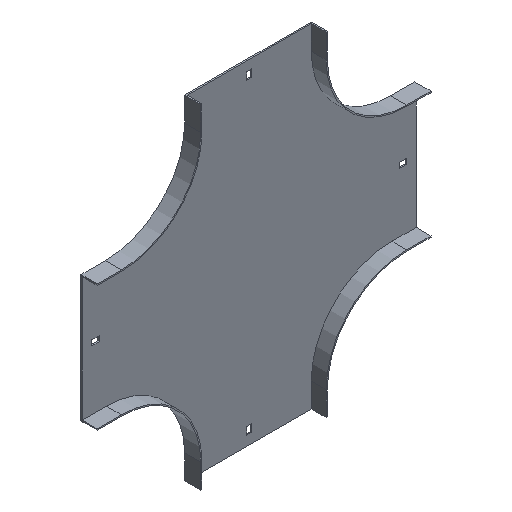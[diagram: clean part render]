
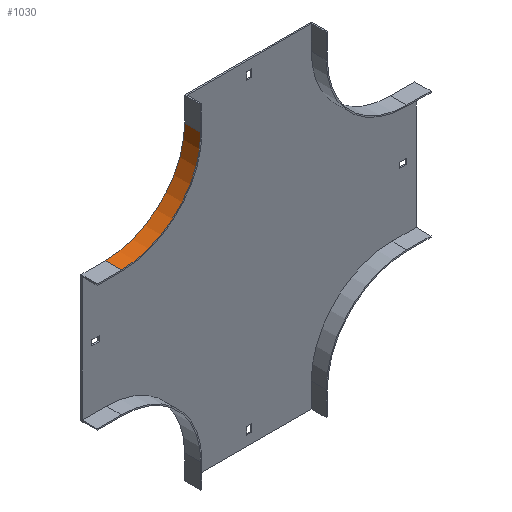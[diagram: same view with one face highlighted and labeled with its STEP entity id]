
A CAD part, isometric view. The second image highlights one B-rep face of the part: STEP entity #1030.
In plain terms, the highlighted cylindrical face has radius 98.5 mm (diameter 197 mm), a partial arc.
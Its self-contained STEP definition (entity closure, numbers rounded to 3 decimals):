
#67 = DIRECTION ( 'NONE',  ( 0., 1., 0. ) ) ;
#91 = VECTOR ( 'NONE', #600, 1000. ) ;
#102 = CARTESIAN_POINT ( 'NONE',  ( -354., -20., 0. ) ) ;
#166 = AXIS2_PLACEMENT_3D ( 'NONE', #102, #1150, #607 ) ;
#203 = VERTEX_POINT ( 'NONE', #269 ) ;
#269 = CARTESIAN_POINT ( 'NONE',  ( -354., -20., -98.5 ) ) ;
#311 = CARTESIAN_POINT ( 'NONE',  ( -255.5, -20., 0. ) ) ;
#429 = CYLINDRICAL_SURFACE ( 'NONE', #441, 98.5 ) ;
#441 = AXIS2_PLACEMENT_3D ( 'NONE', #773, #1395, #1451 ) ;
#476 = ORIENTED_EDGE ( 'NONE', *, *, #1487, .T. ) ;
#494 = CIRCLE ( 'NONE', #166, 98.5 ) ;
#500 = CARTESIAN_POINT ( 'NONE',  ( -354., 0., -98.5 ) ) ;
#514 = ORIENTED_EDGE ( 'NONE', *, *, #1505, .F. ) ;
#583 = DIRECTION ( 'NONE',  ( 0., 0., 1. ) ) ;
#600 = DIRECTION ( 'NONE',  ( 0., 1., 0. ) ) ;
#607 = DIRECTION ( 'NONE',  ( 0., 0., 1. ) ) ;
#693 = LINE ( 'NONE', #1209, #1315 ) ;
#719 = EDGE_LOOP ( 'NONE', ( #1552, #514, #891, #476 ) ) ;
#773 = CARTESIAN_POINT ( 'NONE',  ( -354., -20., 0. ) ) ;
#837 = AXIS2_PLACEMENT_3D ( 'NONE', #1211, #1203, #583 ) ;
#873 = LINE ( 'NONE', #1670, #91 ) ;
#887 = EDGE_CURVE ( 'NONE', #1603, #1445, #1339, .T. ) ;
#891 = ORIENTED_EDGE ( 'NONE', *, *, #1584, .T. ) ;
#946 = FACE_OUTER_BOUND ( 'NONE', #719, .T. ) ;
#1030 = ADVANCED_FACE ( 'NONE', ( #946 ), #429, .F. ) ;
#1104 = VERTEX_POINT ( 'NONE', #311 ) ;
#1150 = DIRECTION ( 'NONE',  ( 0., -1., 0. ) ) ;
#1203 = DIRECTION ( 'NONE',  ( 0., -1., 0. ) ) ;
#1209 = CARTESIAN_POINT ( 'NONE',  ( -255.5, -20., 0. ) ) ;
#1211 = CARTESIAN_POINT ( 'NONE',  ( -354., 0., 0. ) ) ;
#1296 = CARTESIAN_POINT ( 'NONE',  ( -255.5, 0., 0. ) ) ;
#1315 = VECTOR ( 'NONE', #67, 1000. ) ;
#1339 = CIRCLE ( 'NONE', #837, 98.5 ) ;
#1395 = DIRECTION ( 'NONE',  ( 0., 1., 0. ) ) ;
#1445 = VERTEX_POINT ( 'NONE', #1296 ) ;
#1451 = DIRECTION ( 'NONE',  ( 0., 0., 1. ) ) ;
#1487 = EDGE_CURVE ( 'NONE', #1104, #1445, #693, .T. ) ;
#1505 = EDGE_CURVE ( 'NONE', #203, #1603, #873, .T. ) ;
#1552 = ORIENTED_EDGE ( 'NONE', *, *, #887, .F. ) ;
#1584 = EDGE_CURVE ( 'NONE', #203, #1104, #494, .T. ) ;
#1603 = VERTEX_POINT ( 'NONE', #500 ) ;
#1670 = CARTESIAN_POINT ( 'NONE',  ( -354., -20., -98.5 ) ) ;
